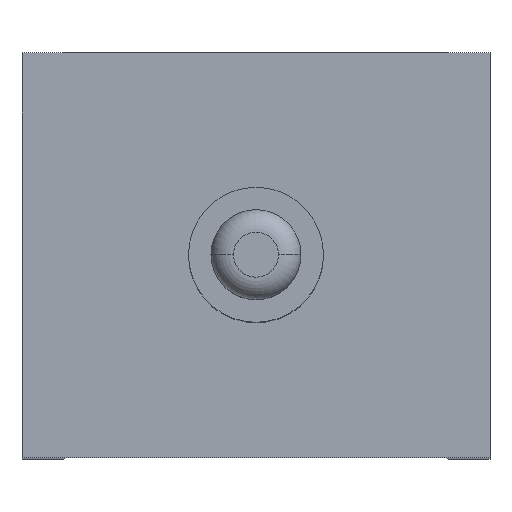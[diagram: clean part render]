
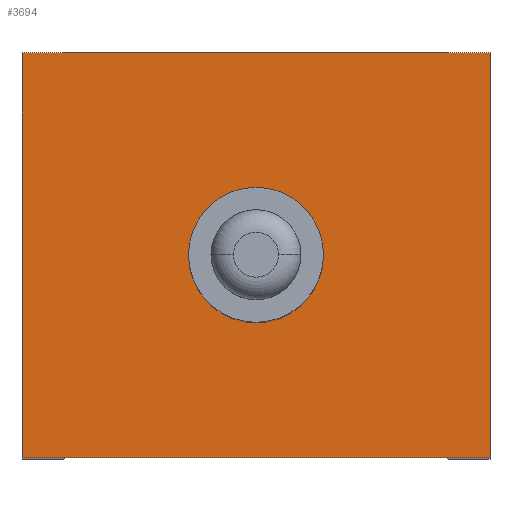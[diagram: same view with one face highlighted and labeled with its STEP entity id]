
A CAD part, top view. The second image highlights one B-rep face of the part: STEP entity #3694.
In plain terms, the highlighted planar face has unit normal (0, 0, 1).
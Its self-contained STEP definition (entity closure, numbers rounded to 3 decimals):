
#234 = CYLINDRICAL_SURFACE('',#235,3.);
#235 = AXIS2_PLACEMENT_3D('',#236,#237,#238);
#236 = CARTESIAN_POINT('',(0.,0.,17.5));
#237 = DIRECTION('',(-0.,-0.,-1.));
#238 = DIRECTION('',(-1.,0.,0.));
#254 = VERTEX_POINT('',#255);
#255 = CARTESIAN_POINT('',(3.,0.,3.));
#269 = CYLINDRICAL_SURFACE('',#270,3.);
#270 = AXIS2_PLACEMENT_3D('',#271,#272,#273);
#271 = CARTESIAN_POINT('',(0.,0.,17.5));
#272 = DIRECTION('',(-0.,-0.,-1.));
#273 = DIRECTION('',(-1.,0.,0.));
#281 = EDGE_CURVE('',#254,#282,#284,.T.);
#282 = VERTEX_POINT('',#283);
#283 = CARTESIAN_POINT('',(-3.,0.,3.));
#284 = SURFACE_CURVE('',#285,(#290,#297),.PCURVE_S1.);
#285 = CIRCLE('',#286,3.);
#286 = AXIS2_PLACEMENT_3D('',#287,#288,#289);
#287 = CARTESIAN_POINT('',(0.,0.,3.));
#288 = DIRECTION('',(0.,0.,1.));
#289 = DIRECTION('',(1.,0.,-0.));
#290 = PCURVE('',#234,#291);
#291 = DEFINITIONAL_REPRESENTATION('',(#292),#296);
#292 = LINE('',#293,#294);
#293 = CARTESIAN_POINT('',(3.142,14.5));
#294 = VECTOR('',#295,1.);
#295 = DIRECTION('',(-1.,0.));
#296 = ( GEOMETRIC_REPRESENTATION_CONTEXT(2) 
PARAMETRIC_REPRESENTATION_CONTEXT() REPRESENTATION_CONTEXT('2D SPACE',''
  ) );
#297 = PCURVE('',#298,#303);
#298 = PLANE('',#299);
#299 = AXIS2_PLACEMENT_3D('',#300,#301,#302);
#300 = CARTESIAN_POINT('',(0.,0.,3.));
#301 = DIRECTION('',(-0.,0.,1.));
#302 = DIRECTION('',(1.,0.,0.));
#303 = DEFINITIONAL_REPRESENTATION('',(#304),#308);
#304 = CIRCLE('',#305,3.);
#305 = AXIS2_PLACEMENT_2D('',#306,#307);
#306 = CARTESIAN_POINT('',(0.,0.));
#307 = DIRECTION('',(1.,0.));
#308 = ( GEOMETRIC_REPRESENTATION_CONTEXT(2) 
PARAMETRIC_REPRESENTATION_CONTEXT() REPRESENTATION_CONTEXT('2D SPACE',''
  ) );
#2071 = PLANE('',#2072);
#2072 = AXIS2_PLACEMENT_3D('',#2073,#2074,#2075);
#2073 = CARTESIAN_POINT('',(-10.4,-9.,0.));
#2074 = DIRECTION('',(0.,1.,0.));
#2075 = DIRECTION('',(0.,-0.,1.));
#2169 = PLANE('',#2170);
#2170 = AXIS2_PLACEMENT_3D('',#2171,#2172,#2173);
#2171 = CARTESIAN_POINT('',(-10.4,0.,0.));
#2172 = DIRECTION('',(-1.,0.,-0.));
#2173 = DIRECTION('',(0.,0.,1.));
#2197 = PLANE('',#2198);
#2198 = AXIS2_PLACEMENT_3D('',#2199,#2200,#2201);
#2199 = CARTESIAN_POINT('',(-10.4,9.,0.));
#2200 = DIRECTION('',(0.,-1.,0.));
#2201 = DIRECTION('',(0.,0.,-1.));
#2293 = PLANE('',#2294);
#2294 = AXIS2_PLACEMENT_3D('',#2295,#2296,#2297);
#2295 = CARTESIAN_POINT('',(10.4,0.,0.));
#2296 = DIRECTION('',(1.,0.,0.));
#2297 = DIRECTION('',(0.,0.,-1.));
#2449 = VERTEX_POINT('',#2450);
#2450 = CARTESIAN_POINT('',(10.4,-9.,3.));
#2471 = EDGE_CURVE('',#2472,#2449,#2474,.T.);
#2472 = VERTEX_POINT('',#2473);
#2473 = CARTESIAN_POINT('',(-10.4,-9.,3.));
#2474 = SURFACE_CURVE('',#2475,(#2479,#2486),.PCURVE_S1.);
#2475 = LINE('',#2476,#2477);
#2476 = CARTESIAN_POINT('',(-10.4,-9.,3.));
#2477 = VECTOR('',#2478,1.);
#2478 = DIRECTION('',(1.,0.,0.));
#2479 = PCURVE('',#2071,#2480);
#2480 = DEFINITIONAL_REPRESENTATION('',(#2481),#2485);
#2481 = LINE('',#2482,#2483);
#2482 = CARTESIAN_POINT('',(3.,0.));
#2483 = VECTOR('',#2484,1.);
#2484 = DIRECTION('',(0.,1.));
#2485 = ( GEOMETRIC_REPRESENTATION_CONTEXT(2) 
PARAMETRIC_REPRESENTATION_CONTEXT() REPRESENTATION_CONTEXT('2D SPACE',''
  ) );
#2486 = PCURVE('',#298,#2487);
#2487 = DEFINITIONAL_REPRESENTATION('',(#2488),#2492);
#2488 = LINE('',#2489,#2490);
#2489 = CARTESIAN_POINT('',(-10.4,-9.));
#2490 = VECTOR('',#2491,1.);
#2491 = DIRECTION('',(1.,0.));
#2492 = ( GEOMETRIC_REPRESENTATION_CONTEXT(2) 
PARAMETRIC_REPRESENTATION_CONTEXT() REPRESENTATION_CONTEXT('2D SPACE',''
  ) );
#2519 = VERTEX_POINT('',#2520);
#2520 = CARTESIAN_POINT('',(-10.4,9.,3.));
#2541 = EDGE_CURVE('',#2542,#2519,#2544,.T.);
#2542 = VERTEX_POINT('',#2543);
#2543 = CARTESIAN_POINT('',(10.4,9.,3.));
#2544 = SURFACE_CURVE('',#2545,(#2549,#2556),.PCURVE_S1.);
#2545 = LINE('',#2546,#2547);
#2546 = CARTESIAN_POINT('',(-10.4,9.,3.));
#2547 = VECTOR('',#2548,1.);
#2548 = DIRECTION('',(-1.,-0.,-0.));
#2549 = PCURVE('',#2197,#2550);
#2550 = DEFINITIONAL_REPRESENTATION('',(#2551),#2555);
#2551 = LINE('',#2552,#2553);
#2552 = CARTESIAN_POINT('',(-3.,0.));
#2553 = VECTOR('',#2554,1.);
#2554 = DIRECTION('',(0.,-1.));
#2555 = ( GEOMETRIC_REPRESENTATION_CONTEXT(2) 
PARAMETRIC_REPRESENTATION_CONTEXT() REPRESENTATION_CONTEXT('2D SPACE',''
  ) );
#2556 = PCURVE('',#298,#2557);
#2557 = DEFINITIONAL_REPRESENTATION('',(#2558),#2562);
#2558 = LINE('',#2559,#2560);
#2559 = CARTESIAN_POINT('',(-10.4,9.));
#2560 = VECTOR('',#2561,1.);
#2561 = DIRECTION('',(-1.,0.));
#2562 = ( GEOMETRIC_REPRESENTATION_CONTEXT(2) 
PARAMETRIC_REPRESENTATION_CONTEXT() REPRESENTATION_CONTEXT('2D SPACE',''
  ) );
#2659 = EDGE_CURVE('',#2519,#2472,#2660,.T.);
#2660 = SURFACE_CURVE('',#2661,(#2665,#2672),.PCURVE_S1.);
#2661 = LINE('',#2662,#2663);
#2662 = CARTESIAN_POINT('',(-10.4,9.,3.));
#2663 = VECTOR('',#2664,1.);
#2664 = DIRECTION('',(0.,-1.,0.));
#2665 = PCURVE('',#2169,#2666);
#2666 = DEFINITIONAL_REPRESENTATION('',(#2667),#2671);
#2667 = LINE('',#2668,#2669);
#2668 = CARTESIAN_POINT('',(3.,9.));
#2669 = VECTOR('',#2670,1.);
#2670 = DIRECTION('',(0.,-1.));
#2671 = ( GEOMETRIC_REPRESENTATION_CONTEXT(2) 
PARAMETRIC_REPRESENTATION_CONTEXT() REPRESENTATION_CONTEXT('2D SPACE',''
  ) );
#2672 = PCURVE('',#298,#2673);
#2673 = DEFINITIONAL_REPRESENTATION('',(#2674),#2678);
#2674 = LINE('',#2675,#2676);
#2675 = CARTESIAN_POINT('',(-10.4,9.));
#2676 = VECTOR('',#2677,1.);
#2677 = DIRECTION('',(0.,-1.));
#2678 = ( GEOMETRIC_REPRESENTATION_CONTEXT(2) 
PARAMETRIC_REPRESENTATION_CONTEXT() REPRESENTATION_CONTEXT('2D SPACE',''
  ) );
#2898 = EDGE_CURVE('',#2449,#2542,#2899,.T.);
#2899 = SURFACE_CURVE('',#2900,(#2904,#2911),.PCURVE_S1.);
#2900 = LINE('',#2901,#2902);
#2901 = CARTESIAN_POINT('',(10.4,9.,3.));
#2902 = VECTOR('',#2903,1.);
#2903 = DIRECTION('',(-0.,1.,-0.));
#2904 = PCURVE('',#2293,#2905);
#2905 = DEFINITIONAL_REPRESENTATION('',(#2906),#2910);
#2906 = LINE('',#2907,#2908);
#2907 = CARTESIAN_POINT('',(-3.,9.));
#2908 = VECTOR('',#2909,1.);
#2909 = DIRECTION('',(0.,1.));
#2910 = ( GEOMETRIC_REPRESENTATION_CONTEXT(2) 
PARAMETRIC_REPRESENTATION_CONTEXT() REPRESENTATION_CONTEXT('2D SPACE',''
  ) );
#2911 = PCURVE('',#298,#2912);
#2912 = DEFINITIONAL_REPRESENTATION('',(#2913),#2917);
#2913 = LINE('',#2914,#2915);
#2914 = CARTESIAN_POINT('',(10.4,9.));
#2915 = VECTOR('',#2916,1.);
#2916 = DIRECTION('',(0.,1.));
#2917 = ( GEOMETRIC_REPRESENTATION_CONTEXT(2) 
PARAMETRIC_REPRESENTATION_CONTEXT() REPRESENTATION_CONTEXT('2D SPACE',''
  ) );
#3694 = ADVANCED_FACE('',(#3695,#3720),#298,.T.);
#3695 = FACE_BOUND('',#3696,.T.);
#3696 = EDGE_LOOP('',(#3697,#3719));
#3697 = ORIENTED_EDGE('',*,*,#3698,.F.);
#3698 = EDGE_CURVE('',#282,#254,#3699,.T.);
#3699 = SURFACE_CURVE('',#3700,(#3705,#3712),.PCURVE_S1.);
#3700 = CIRCLE('',#3701,3.);
#3701 = AXIS2_PLACEMENT_3D('',#3702,#3703,#3704);
#3702 = CARTESIAN_POINT('',(0.,0.,3.));
#3703 = DIRECTION('',(0.,0.,1.));
#3704 = DIRECTION('',(1.,0.,-0.));
#3705 = PCURVE('',#298,#3706);
#3706 = DEFINITIONAL_REPRESENTATION('',(#3707),#3711);
#3707 = CIRCLE('',#3708,3.);
#3708 = AXIS2_PLACEMENT_2D('',#3709,#3710);
#3709 = CARTESIAN_POINT('',(0.,0.));
#3710 = DIRECTION('',(1.,0.));
#3711 = ( GEOMETRIC_REPRESENTATION_CONTEXT(2) 
PARAMETRIC_REPRESENTATION_CONTEXT() REPRESENTATION_CONTEXT('2D SPACE',''
  ) );
#3712 = PCURVE('',#269,#3713);
#3713 = DEFINITIONAL_REPRESENTATION('',(#3714),#3718);
#3714 = LINE('',#3715,#3716);
#3715 = CARTESIAN_POINT('',(9.425,14.5));
#3716 = VECTOR('',#3717,1.);
#3717 = DIRECTION('',(-1.,0.));
#3718 = ( GEOMETRIC_REPRESENTATION_CONTEXT(2) 
PARAMETRIC_REPRESENTATION_CONTEXT() REPRESENTATION_CONTEXT('2D SPACE',''
  ) );
#3719 = ORIENTED_EDGE('',*,*,#281,.F.);
#3720 = FACE_BOUND('',#3721,.T.);
#3721 = EDGE_LOOP('',(#3722,#3723,#3724,#3725));
#3722 = ORIENTED_EDGE('',*,*,#2659,.T.);
#3723 = ORIENTED_EDGE('',*,*,#2471,.T.);
#3724 = ORIENTED_EDGE('',*,*,#2898,.T.);
#3725 = ORIENTED_EDGE('',*,*,#2541,.T.);
